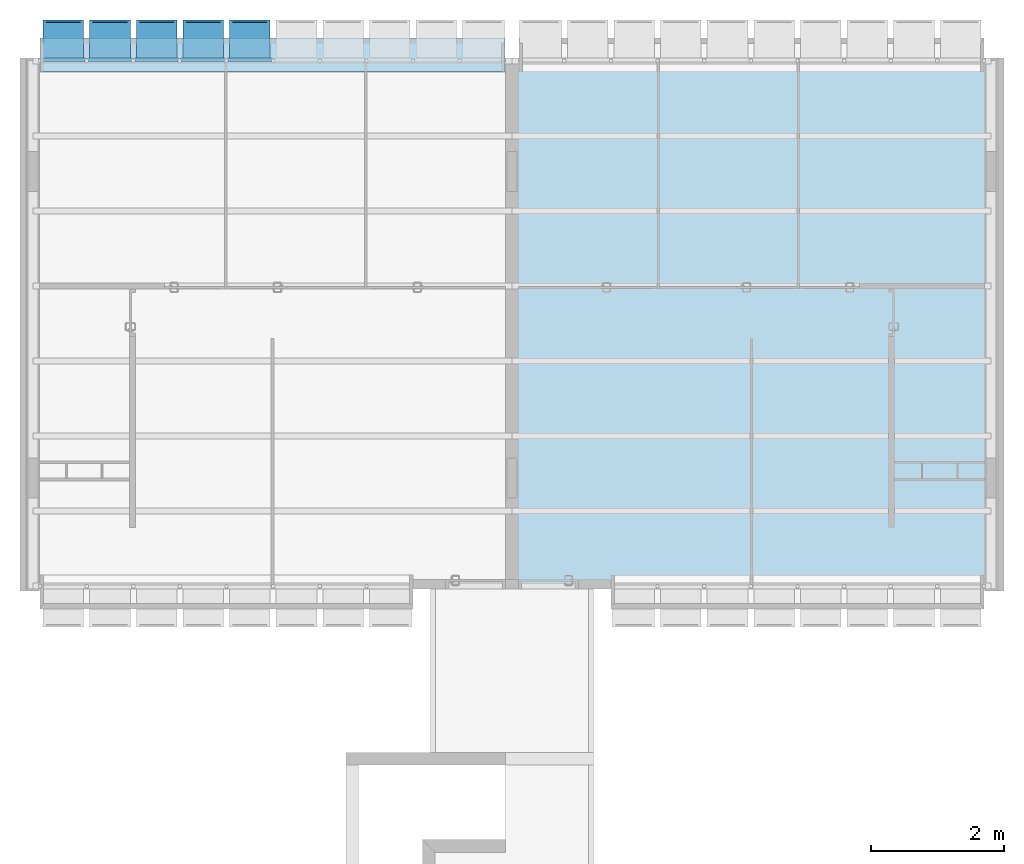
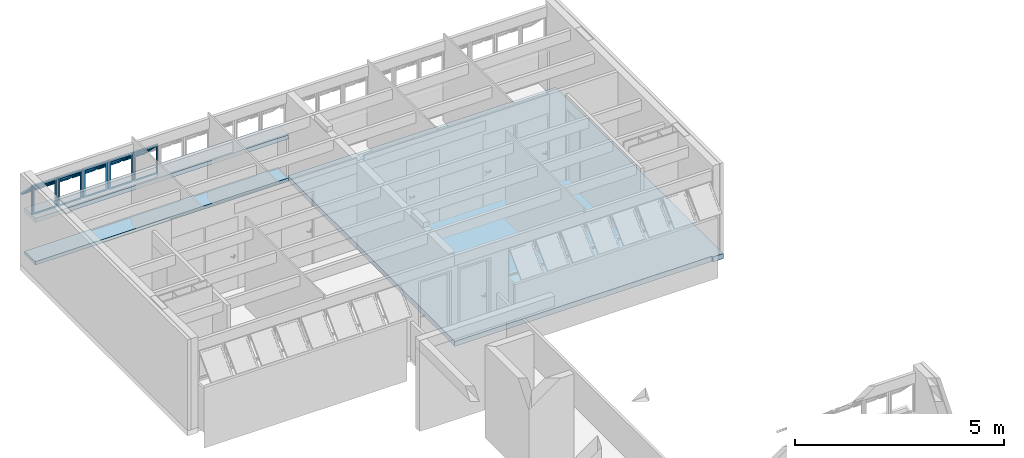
# One storey, part 14 of 40: 5 plates, 3 slabs, 1 element without a shape of its own.
"""IFC4 building model written with IfcOpenShell, lengths in millimetres."""

from ifc_helpers import new_model, entity, si_unit, converted_unit, derived_unit, direction, frame, origin_with_axes, place, context, subcontext, project, spatial, line, indexed_curve, outline, extrude, polygons, source, transform, mapped, material, layer, layer_set, layer_usage, constituent, constituent_set, type_object, element, aggregate, save


model = new_model("IFC4")

# Units and contexts
model_context = context("Model", 3, precision=0.01, world=origin_with_axes(), true_north=direction((0.0, 1.0)))
body_context = subcontext(model_context, "Body", "Model", "MODEL_VIEW")
ifc_project = project(units=[si_unit("LENGTHUNIT", "METRE", prefix="MILLI"), si_unit("AREAUNIT", "SQUARE_METRE"), si_unit("VOLUMEUNIT", "CUBIC_METRE"), converted_unit("PLANEANGLEUNIT", "DEGREE", entity("IfcPlaneAngleMeasure", 0.0174532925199), si_unit("PLANEANGLEUNIT", "RADIAN"), dimensions=[0, 0, 0, 0, 0, 0, 0]), converted_unit("TIMEUNIT", "Year", entity("IfcTimeMeasure", 31556926.0), si_unit("TIMEUNIT", "SECOND"), dimensions=[0, 0, 1, 0, 0, 0, 0]), si_unit("MASSUNIT", "GRAM", prefix="KILO"), si_unit("THERMODYNAMICTEMPERATUREUNIT", "DEGREE_CELSIUS"), si_unit("LUMINOUSINTENSITYUNIT", "LUMEN"), si_unit("ENERGYUNIT", "JOULE", prefix="MEGA"), derived_unit("THERMALCONDUCTANCEUNIT", [(si_unit("POWERUNIT", "WATT"), 1), (si_unit("LENGTHUNIT", "METRE"), -1), (si_unit("THERMODYNAMICTEMPERATUREUNIT", "KELVIN"), -1)]), derived_unit("SPECIFICHEATCAPACITYUNIT", [(si_unit("ENERGYUNIT", "JOULE"), 1), (si_unit("MASSUNIT", "GRAM", prefix="KILO"), -1), (si_unit("THERMODYNAMICTEMPERATUREUNIT", "KELVIN"), -1)]), derived_unit("MASSDENSITYUNIT", [(si_unit("MASSUNIT", "GRAM", prefix="KILO"), 1), (si_unit("VOLUMEUNIT", "CUBIC_METRE"), -1)])], contexts=[model_context])

# Site, building, storey
site_placement = place(None, origin_with_axes())
site = spatial("IfcSite", under=ifc_project, at=site_placement, Name="Local", CompositionType="ELEMENT")
building_placement = place(site_placement, origin_with_axes())
building = spatial("IfcBuilding", under=site, at=building_placement, Name="Construção", CompositionType="ELEMENT")
storey_placement = place(building_placement, frame((0.0, 0.0, 5300.0), z_axis=(0.0, 0.0, 1.0), x_axis=(1.0, 0.0, 0.0)))
storey = spatial("IfcBuildingStorey", under=building, at=storey_placement, Name="Terceiro Pavimento", CompositionType="ELEMENT", Elevation=5300.0)

# Slabs
ifc_material_1 = material(Name="Concreto Armado Moldado in Loco - Estrutural")
ifc_layer_1 = layer(ifc_material_1, 150.0, ventilated="UNKNOWN", Name="Concreto Armado Moldado in Loco - Estrutural")
ifc_layer_set_1 = layer_set([ifc_layer_1], Name="Concreto Armado Moldado in Loco - Estrutural 150")
ifc_layer_usage_1 = layer_usage(ifc_layer_set_1, "AXIS3", "NEGATIVE", 150.0)
slab_type_1 = type_object("IfcSlabType", Name="Concreto Armado Moldado in Loco - Estrutural 150", PredefinedType="FLOOR")
slab_1_placement = place(storey_placement, frame((14770.0, 25860.0, 0.0), z_axis=(0.0, 0.0, 1.0), x_axis=(1.0, 0.0, 0.0)))
element("IfcSlab", 1, at=slab_1_placement, inside=storey, type_object=slab_type_1, material=ifc_layer_usage_1, Name="APTO12-LAJE-000", PredefinedType="FLOOR", context=body_context, shape_type="SweptSolid", body=[
    extrude(outline(indexed_curve([(0.0, 0.0), (-299.999978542, 0.0), (-7385.0, 0.0), (-7385.0, -7964.99999866), (-6160.00008404, -7964.99999866), (-5900.0, -7965.0), (-290.0, -7965.0), (-289.999999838, -8000.00000006), (0.0, -7999.99999872)], segments=[line(1, 2, 3, 4, 5, 6, 7, 8, 9, 1)])), frame((0.0, 0.0, -150.0), z_axis=(0.0, 0.0, 1.0), x_axis=(1.0, 0.0, 0.0)), (0.0, 0.0, 1.0), 150.0),
])
ifc_layer_2 = layer(ifc_material_1, 120.0, ventilated="UNKNOWN", Name="Concreto Armado Moldado in Loco - Estrutural")
ifc_layer_set_2 = layer_set([ifc_layer_2], Name="Concreto Armado Moldado in Loco - Estrutural 120")
ifc_layer_usage_2 = layer_usage(ifc_layer_set_2, "AXIS3", "NEGATIVE", 120.0)
slab_type_2 = type_object("IfcSlabType", Name="Concreto Armado Moldado in Loco - Estrutural 120", PredefinedType="FLOOR")
slab_2_placement = place(storey_placement, frame((300.0, 26160.0, 1355.0), z_axis=(0.0, 0.0, 1.0), x_axis=(1.0, 0.0, 0.0)))
element("IfcSlab", 2, at=slab_2_placement, inside=storey, type_object=slab_type_2, material=ifc_layer_usage_2, Name="APTO11-LAJE-002", PredefinedType="FLOOR", context=body_context, shape_type="SweptSolid", body=[
    extrude(outline(indexed_curve([(0.0, 0.0), (0.0, -510.0), (6980.0, -510.0), (6980.0, 0.0)], segments=[line(1, 2, 3, 4, 1)])), frame((0.0, 0.0, -120.0), z_axis=(0.0, 0.0, 1.0), x_axis=(1.0, 0.0, 0.0)), (0.0, 0.0, 1.0), 120.0),
])
ifc_layer_3 = layer(ifc_material_1, 100.0, ventilated="UNKNOWN", Name="Concreto Armado Moldado in Loco - Estrutural")
ifc_layer_set_3 = layer_set([ifc_layer_3], Name="Concreto Armado Moldado in Loco - Estrutural 100")
ifc_layer_usage_3 = layer_usage(ifc_layer_set_3, "AXIS3", "NEGATIVE", 100.0)
slab_type_3 = type_object("IfcSlabType", Name="Concreto Armado Moldado in Loco - Estrutural 100", PredefinedType="FLOOR")
slab_3_placement = place(storey_placement, frame((300.0, 26160.0, 100.0), z_axis=(0.0, 0.0, 1.0), x_axis=(1.0, 0.0, 0.0)))
element("IfcSlab", 3, at=slab_3_placement, inside=storey, type_object=slab_type_3, material=ifc_layer_usage_3, Name="APTO11-LAJE-001", PredefinedType="FLOOR", context=body_context, shape_type="SweptSolid", body=[
    extrude(outline(indexed_curve([(0.0, 0.0), (0.0, -510.0), (6980.0, -510.0), (6980.0, 0.0)], segments=[line(1, 2, 3, 4, 1)])), frame((0.0, 0.0, -100.0), z_axis=(0.0, 0.0, 1.0), x_axis=(1.0, 0.0, 0.0)), (0.0, 0.0, 1.0), 100.0),
])

# Window, plates
window_type = type_object("IfcWindowType", Name="Tipo de Parede Cortina", PartitioningType="NOTDEFINED", PredefinedType="NOTDEFINED")
window_placement = place(storey_placement, frame((6250.0, 25844.9790225, 1355.02054151), z_axis=(0.0, 0.0, 1.0), x_axis=(1.0, 0.0, 0.0)))
window = element("IfcWindow", 4, at=window_placement, inside=storey, type_object=window_type, Name="APTO11-JANELA-001", PredefinedType="NOTDEFINED")
ifc_material_2 = material(Name="Alumínio")
ifc_constituent_1 = constituent(ifc_material_2, Name="Alumínio")
ifc_material_3 = material(Name="Vidro")
ifc_constituent_2 = constituent(ifc_material_3, Name="Vidro")
ifc_constituent_set_1 = constituent_set(constituents=[ifc_constituent_1, ifc_constituent_2])
plate_type = type_object("IfcPlateType", Name="Painel Principal 690 x 845 x 20", PredefinedType="CURTAIN_PANEL")
shared_shape_1 = source(origin_with_axes(), body_context, "Body", "Tessellation", [
    polygons([(-25.0000036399, 0.0, -40.0), (-25.0000036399, 0.0, -35.0), (-674.999997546, 0.0, -35.0), (-674.999997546, 0.0, -40.0), (-70.0000036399, 45.0, -40.0), (-70.0000036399, 45.0, -35.0), (-629.999997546, 45.0, -35.0), (-629.999997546, 45.0, -40.0)], [[[1, 2, 3, 4]], [[5, 6, 2, 1]], [[2, 6, 7, 3]], [[4, 3, 7, 8]], [[1, 4, 8, 5]], [[8, 7, 6, 5]]], closed=True),
    polygons([(-674.999997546, 0.0, -40.0), (-674.999997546, 0.0, -35.0), (-674.999997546, 844.999891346, -35.0), (-674.999997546, 844.999891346, -40.0), (-629.999997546, 45.0, -40.0), (-629.999997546, 45.0, -35.0), (-629.999997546, 799.999891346, -35.0), (-629.999997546, 799.999891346, -40.0)], [[[1, 2, 3, 4]], [[5, 6, 2, 1]], [[2, 6, 7, 3]], [[4, 3, 7, 8]], [[1, 4, 8, 5]], [[8, 7, 6, 5]]], closed=True),
    polygons([(-25.0000036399, 844.999891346, -40.0), (-25.0000036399, 844.999891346, -35.0), (-70.0000036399, 799.999891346, -35.0), (-70.0000036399, 799.999891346, -40.0), (-674.999997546, 844.999891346, -40.0), (-674.999997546, 844.999891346, -35.0), (-629.999997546, 799.999891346, -35.0), (-629.999997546, 799.999891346, -40.0)], [[[1, 2, 3, 4]], [[5, 6, 2, 1]], [[2, 6, 7, 3]], [[4, 3, 7, 8]], [[1, 4, 8, 5]], [[8, 7, 6, 5]]], closed=True),
    polygons([(-25.0000036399, 0.0, -40.0), (-25.0000036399, 0.0, -35.0), (-70.0000036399, 45.0, -35.0), (-70.0000036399, 45.0, -40.0), (-25.0000036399, 844.999891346, -40.0), (-25.0000036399, 844.999891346, -35.0), (-70.0000036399, 799.999891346, -35.0), (-70.0000036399, 799.999891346, -40.0)], [[[1, 2, 3, 4]], [[5, 6, 2, 1]], [[2, 6, 7, 3]], [[4, 3, 7, 8]], [[1, 4, 8, 5]], [[8, 7, 6, 5]]], closed=True),
    polygons([(-25.0000036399, 0.0, -35.0), (-25.0000036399, 0.0, 15.0), (-674.999997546, 0.0, 15.0), (-674.999997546, 0.0, -35.0), (-45.0000036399, 20.0, -35.0), (-45.0000036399, 20.0, 15.0), (-654.999997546, 20.0, 15.0), (-654.999997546, 20.0, -35.0)], [[[1, 2, 3, 4]], [[5, 6, 2, 1]], [[2, 6, 7, 3]], [[4, 3, 7, 8]], [[1, 4, 8, 5]], [[8, 7, 6, 5]]], closed=True),
    polygons([(-674.999997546, 0.0, -35.0), (-674.999997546, 0.0, 15.0), (-674.999997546, 844.999891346, 15.0), (-674.999997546, 844.999891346, -35.0), (-654.999997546, 20.0, -35.0), (-654.999997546, 20.0, 15.0), (-654.999997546, 824.999891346, 15.0), (-654.999997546, 824.999891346, -35.0)], [[[1, 2, 3, 4]], [[5, 6, 2, 1]], [[2, 6, 7, 3]], [[4, 3, 7, 8]], [[1, 4, 8, 5]], [[8, 7, 6, 5]]], closed=True),
    polygons([(-25.0000036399, 844.999891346, -35.0), (-25.0000036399, 844.999891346, 15.0), (-45.0000036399, 824.999891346, 15.0), (-45.0000036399, 824.999891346, -35.0), (-674.999997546, 844.999891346, -35.0), (-674.999997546, 844.999891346, 15.0), (-654.999997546, 824.999891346, 15.0), (-654.999997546, 824.999891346, -35.0)], [[[1, 2, 3, 4]], [[5, 6, 2, 1]], [[2, 6, 7, 3]], [[4, 3, 7, 8]], [[1, 4, 8, 5]], [[8, 7, 6, 5]]], closed=True),
    polygons([(-25.0000036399, 0.0, -35.0), (-25.0000036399, 0.0, 15.0), (-45.0000036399, 20.0, 15.0), (-45.0000036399, 20.0, -35.0), (-25.0000036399, 844.999891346, -35.0), (-25.0000036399, 844.999891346, 15.0), (-45.0000036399, 824.999891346, 15.0), (-45.0000036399, 824.999891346, -35.0)], [[[1, 2, 3, 4]], [[5, 6, 2, 1]], [[2, 6, 7, 3]], [[4, 3, 7, 8]], [[1, 4, 8, 5]], [[8, 7, 6, 5]]], closed=True),
    polygons([(-694.999995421, 0.0, -10.0), (-694.999995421, 0.0, 10.0), (-694.999995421, 844.999891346, 10.0), (-694.999995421, 844.999891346, -10.0), (-674.999997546, 0.0, -10.0), (-674.999997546, 0.0, 10.0), (-674.999997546, 844.999891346, 10.0), (-674.999997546, 844.999891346, -10.0)], [[[1, 2, 3, 4]], [[5, 6, 2, 1]], [[2, 6, 7, 3]], [[4, 3, 7, 8]], [[1, 4, 8, 5]], [[8, 7, 6, 5]]], closed=True),
    polygons([(-5.00000576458, 844.999891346, -10.0), (-5.00000576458, 844.999891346, 10.0), (-5.00000576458, 0.0, 10.0), (-5.00000576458, 0.0, -10.0), (-25.0000036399, 844.999891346, -10.0), (-25.0000036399, 844.999891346, 10.0), (-25.0000036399, 0.0, 10.0), (-25.0000036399, 0.0, -10.0)], [[[1, 2, 3, 4]], [[5, 6, 2, 1]], [[2, 6, 7, 3]], [[4, 3, 7, 8]], [[1, 4, 8, 5]], [[8, 7, 6, 5]]], closed=True),
    polygons([(-90.0000036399, 252.243475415, 517.045737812), (-90.0000036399, 291.13434838, 555.936610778), (-90.0000036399, 796.715620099, 50.3553390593), (-90.0000036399, 757.824747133, 11.4644660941), (-45.0000036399, 220.423670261, 548.865542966), (-45.0000036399, 259.314543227, 587.756415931), (-45.0000036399, 828.535425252, 18.5355339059), (-45.0000036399, 789.644552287, -20.3553390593)], [[[1, 2, 3, 4]], [[5, 6, 2, 1]], [[2, 6, 7, 3]], [[4, 3, 7, 8]], [[1, 4, 8, 5]], [[8, 7, 6, 5]]], closed=True),
    polygons([(-654.999997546, 220.423670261, 548.865542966), (-654.999997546, 259.314543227, 587.756415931), (-654.999997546, 828.535425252, 18.5355339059), (-654.999997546, 789.644552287, -20.3553390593), (-609.999997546, 252.243475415, 517.045737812), (-609.999997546, 291.13434838, 555.936610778), (-609.999997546, 796.715620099, 50.3553390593), (-609.999997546, 757.824747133, 11.4644660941)], [[[1, 2, 3, 4]], [[5, 6, 2, 1]], [[2, 6, 7, 3]], [[4, 3, 7, 8]], [[1, 4, 8, 5]], [[8, 7, 6, 5]]], closed=True),
    polygons([(-654.999997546, 220.423670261, 548.865542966), (-654.999997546, 259.314543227, 587.756415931), (-609.999997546, 291.13434838, 555.936610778), (-609.999997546, 252.243475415, 517.045737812), (-45.0000036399, 220.423670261, 548.865542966), (-45.0000036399, 259.314543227, 587.756415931), (-90.0000036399, 291.13434838, 555.936610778), (-90.0000036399, 252.243475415, 517.045737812)], [[[1, 2, 3, 4]], [[5, 6, 2, 1]], [[2, 6, 7, 3]], [[4, 3, 7, 8]], [[1, 4, 8, 5]], [[8, 7, 6, 5]]], closed=True),
    polygons([(-45.0000036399, 789.644552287, -20.3553390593), (-45.0000036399, 828.535425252, 18.5355339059), (-90.0000036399, 796.715620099, 50.3553390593), (-90.0000036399, 757.824747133, 11.4644660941), (-654.999997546, 789.644552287, -20.3553390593), (-654.999997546, 828.535425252, 18.5355339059), (-609.999997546, 796.715620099, 50.3553390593), (-609.999997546, 757.824747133, 11.4644660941)], [[[1, 2, 3, 4]], [[5, 6, 2, 1]], [[2, 6, 7, 3]], [[4, 3, 7, 8]], [[1, 4, 8, 5]], [[8, 7, 6, 5]]], closed=True),
    polygons([(-90.0000036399, 272.749572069, 537.551834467), (-90.0000036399, 284.063280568, 548.865542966), (-609.999997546, 284.063280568, 548.865542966), (-609.999997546, 272.749572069, 537.551834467), (-90.0000036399, 778.330843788, 31.9705627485), (-90.0000036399, 789.644552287, 43.2842712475), (-609.999997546, 789.644552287, 43.2842712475), (-609.999997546, 778.330843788, 31.9705627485)], [[[1, 2, 3, 4]], [[5, 6, 2, 1]], [[2, 6, 7, 3]], [[4, 3, 7, 8]], [[1, 4, 8, 5]], [[8, 7, 6, 5]]], closed=True),
])
plate_1_placement = place(window_placement, frame((-3500.0, 0.0, 422.499945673), z_axis=(0.0, 0.0, 1.0), x_axis=(-1.0, 0.0, 0.0)))
plate_1 = element("IfcPlate", 5, at=plate_1_placement, type_object=plate_type, material=ifc_constituent_set_1, Name="APTO11-Painel-Prin-013", PredefinedType="CURTAIN_PANEL", context=body_context, shape_type="MappedRepresentation", body=[
    mapped(shared_shape_1, transform((350.0, 0.0, -422.499945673), x_axis=(1.0, 0.0, 0.0), y_axis=(0.0, 0.0, 1.0), z_axis=(0.0, -1.0, 0.0))),
])
ifc_constituent_3 = constituent(ifc_material_2, Name="Alumínio")
ifc_constituent_4 = constituent(ifc_material_3, Name="Vidro")
ifc_constituent_set_2 = constituent_set(constituents=[ifc_constituent_3, ifc_constituent_4])
shared_shape_2 = source(origin_with_axes(), body_context, "Body", "Tessellation", [
    polygons([(-25.0000036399, 0.0, -40.0), (-25.0000036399, 0.0, -35.0), (-674.999997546, 0.0, -35.0), (-674.999997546, 0.0, -40.0), (-70.0000036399, 45.0, -40.0), (-70.0000036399, 45.0, -35.0), (-629.999997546, 45.0, -35.0), (-629.999997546, 45.0, -40.0)], [[[1, 2, 3, 4]], [[5, 6, 2, 1]], [[2, 6, 7, 3]], [[4, 3, 7, 8]], [[1, 4, 8, 5]], [[8, 7, 6, 5]]], closed=True),
    polygons([(-674.999997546, 0.0, -40.0), (-674.999997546, 0.0, -35.0), (-674.999997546, 844.999891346, -35.0), (-674.999997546, 844.999891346, -40.0), (-629.999997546, 45.0, -40.0), (-629.999997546, 45.0, -35.0), (-629.999997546, 799.999891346, -35.0), (-629.999997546, 799.999891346, -40.0)], [[[1, 2, 3, 4]], [[5, 6, 2, 1]], [[2, 6, 7, 3]], [[4, 3, 7, 8]], [[1, 4, 8, 5]], [[8, 7, 6, 5]]], closed=True),
    polygons([(-25.0000036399, 844.999891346, -40.0), (-25.0000036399, 844.999891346, -35.0), (-70.0000036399, 799.999891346, -35.0), (-70.0000036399, 799.999891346, -40.0), (-674.999997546, 844.999891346, -40.0), (-674.999997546, 844.999891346, -35.0), (-629.999997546, 799.999891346, -35.0), (-629.999997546, 799.999891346, -40.0)], [[[1, 2, 3, 4]], [[5, 6, 2, 1]], [[2, 6, 7, 3]], [[4, 3, 7, 8]], [[1, 4, 8, 5]], [[8, 7, 6, 5]]], closed=True),
    polygons([(-25.0000036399, 0.0, -40.0), (-25.0000036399, 0.0, -35.0), (-70.0000036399, 45.0, -35.0), (-70.0000036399, 45.0, -40.0), (-25.0000036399, 844.999891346, -40.0), (-25.0000036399, 844.999891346, -35.0), (-70.0000036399, 799.999891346, -35.0), (-70.0000036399, 799.999891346, -40.0)], [[[1, 2, 3, 4]], [[5, 6, 2, 1]], [[2, 6, 7, 3]], [[4, 3, 7, 8]], [[1, 4, 8, 5]], [[8, 7, 6, 5]]], closed=True),
    polygons([(-25.0000036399, 0.0, -35.0), (-25.0000036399, 0.0, 15.0), (-674.999997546, 0.0, 15.0), (-674.999997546, 0.0, -35.0), (-45.0000036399, 20.0, -35.0), (-45.0000036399, 20.0, 15.0), (-654.999997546, 20.0, 15.0), (-654.999997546, 20.0, -35.0)], [[[1, 2, 3, 4]], [[5, 6, 2, 1]], [[2, 6, 7, 3]], [[4, 3, 7, 8]], [[1, 4, 8, 5]], [[8, 7, 6, 5]]], closed=True),
    polygons([(-674.999997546, 0.0, -35.0), (-674.999997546, 0.0, 15.0), (-674.999997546, 844.999891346, 15.0), (-674.999997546, 844.999891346, -35.0), (-654.999997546, 20.0, -35.0), (-654.999997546, 20.0, 15.0), (-654.999997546, 824.999891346, 15.0), (-654.999997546, 824.999891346, -35.0)], [[[1, 2, 3, 4]], [[5, 6, 2, 1]], [[2, 6, 7, 3]], [[4, 3, 7, 8]], [[1, 4, 8, 5]], [[8, 7, 6, 5]]], closed=True),
    polygons([(-25.0000036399, 844.999891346, -35.0), (-25.0000036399, 844.999891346, 15.0), (-45.0000036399, 824.999891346, 15.0), (-45.0000036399, 824.999891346, -35.0), (-674.999997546, 844.999891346, -35.0), (-674.999997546, 844.999891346, 15.0), (-654.999997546, 824.999891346, 15.0), (-654.999997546, 824.999891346, -35.0)], [[[1, 2, 3, 4]], [[5, 6, 2, 1]], [[2, 6, 7, 3]], [[4, 3, 7, 8]], [[1, 4, 8, 5]], [[8, 7, 6, 5]]], closed=True),
    polygons([(-25.0000036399, 0.0, -35.0), (-25.0000036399, 0.0, 15.0), (-45.0000036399, 20.0, 15.0), (-45.0000036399, 20.0, -35.0), (-25.0000036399, 844.999891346, -35.0), (-25.0000036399, 844.999891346, 15.0), (-45.0000036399, 824.999891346, 15.0), (-45.0000036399, 824.999891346, -35.0)], [[[1, 2, 3, 4]], [[5, 6, 2, 1]], [[2, 6, 7, 3]], [[4, 3, 7, 8]], [[1, 4, 8, 5]], [[8, 7, 6, 5]]], closed=True),
    polygons([(-694.999995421, 0.0, -10.0), (-694.999995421, 0.0, 10.0), (-694.999995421, 844.999891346, 10.0), (-694.999995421, 844.999891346, -10.0), (-674.999997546, 0.0, -10.0), (-674.999997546, 0.0, 10.0), (-674.999997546, 844.999891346, 10.0), (-674.999997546, 844.999891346, -10.0)], [[[1, 2, 3, 4]], [[5, 6, 2, 1]], [[2, 6, 7, 3]], [[4, 3, 7, 8]], [[1, 4, 8, 5]], [[8, 7, 6, 5]]], closed=True),
    polygons([(-5.00000576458, 844.999891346, -10.0), (-5.00000576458, 844.999891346, 10.0), (-5.00000576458, 0.0, 10.0), (-5.00000576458, 0.0, -10.0), (-25.0000036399, 844.999891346, -10.0), (-25.0000036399, 844.999891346, 10.0), (-25.0000036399, 0.0, 10.0), (-25.0000036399, 0.0, -10.0)], [[[1, 2, 3, 4]], [[5, 6, 2, 1]], [[2, 6, 7, 3]], [[4, 3, 7, 8]], [[1, 4, 8, 5]], [[8, 7, 6, 5]]], closed=True),
    polygons([(-90.0000036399, 252.243475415, 517.045737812), (-90.0000036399, 291.13434838, 555.936610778), (-90.0000036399, 796.715620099, 50.3553390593), (-90.0000036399, 757.824747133, 11.4644660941), (-45.0000036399, 220.423670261, 548.865542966), (-45.0000036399, 259.314543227, 587.756415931), (-45.0000036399, 828.535425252, 18.5355339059), (-45.0000036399, 789.644552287, -20.3553390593)], [[[1, 2, 3, 4]], [[5, 6, 2, 1]], [[2, 6, 7, 3]], [[4, 3, 7, 8]], [[1, 4, 8, 5]], [[8, 7, 6, 5]]], closed=True),
    polygons([(-654.999997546, 220.423670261, 548.865542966), (-654.999997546, 259.314543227, 587.756415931), (-654.999997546, 828.535425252, 18.5355339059), (-654.999997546, 789.644552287, -20.3553390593), (-609.999997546, 252.243475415, 517.045737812), (-609.999997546, 291.13434838, 555.936610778), (-609.999997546, 796.715620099, 50.3553390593), (-609.999997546, 757.824747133, 11.4644660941)], [[[1, 2, 3, 4]], [[5, 6, 2, 1]], [[2, 6, 7, 3]], [[4, 3, 7, 8]], [[1, 4, 8, 5]], [[8, 7, 6, 5]]], closed=True),
    polygons([(-654.999997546, 220.423670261, 548.865542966), (-654.999997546, 259.314543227, 587.756415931), (-609.999997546, 291.13434838, 555.936610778), (-609.999997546, 252.243475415, 517.045737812), (-45.0000036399, 220.423670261, 548.865542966), (-45.0000036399, 259.314543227, 587.756415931), (-90.0000036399, 291.13434838, 555.936610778), (-90.0000036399, 252.243475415, 517.045737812)], [[[1, 2, 3, 4]], [[5, 6, 2, 1]], [[2, 6, 7, 3]], [[4, 3, 7, 8]], [[1, 4, 8, 5]], [[8, 7, 6, 5]]], closed=True),
    polygons([(-45.0000036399, 789.644552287, -20.3553390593), (-45.0000036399, 828.535425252, 18.5355339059), (-90.0000036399, 796.715620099, 50.3553390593), (-90.0000036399, 757.824747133, 11.4644660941), (-654.999997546, 789.644552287, -20.3553390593), (-654.999997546, 828.535425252, 18.5355339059), (-609.999997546, 796.715620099, 50.3553390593), (-609.999997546, 757.824747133, 11.4644660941)], [[[1, 2, 3, 4]], [[5, 6, 2, 1]], [[2, 6, 7, 3]], [[4, 3, 7, 8]], [[1, 4, 8, 5]], [[8, 7, 6, 5]]], closed=True),
    polygons([(-90.0000036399, 272.749572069, 537.551834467), (-90.0000036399, 284.063280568, 548.865542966), (-609.999997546, 284.063280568, 548.865542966), (-609.999997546, 272.749572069, 537.551834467), (-90.0000036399, 778.330843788, 31.9705627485), (-90.0000036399, 789.644552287, 43.2842712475), (-609.999997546, 789.644552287, 43.2842712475), (-609.999997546, 778.330843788, 31.9705627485)], [[[1, 2, 3, 4]], [[5, 6, 2, 1]], [[2, 6, 7, 3]], [[4, 3, 7, 8]], [[1, 4, 8, 5]], [[8, 7, 6, 5]]], closed=True),
])
plate_2_placement = place(window_placement, frame((-5600.0, 0.0, 422.499945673), z_axis=(0.0, 0.0, 1.0), x_axis=(-1.0, 0.0, 0.0)))
plate_2 = element("IfcPlate", 6, at=plate_2_placement, type_object=plate_type, material=ifc_constituent_set_2, Name="APTO11-Painel-Prin-013", PredefinedType="CURTAIN_PANEL", context=body_context, shape_type="MappedRepresentation", body=[
    mapped(shared_shape_2, transform((350.0, 0.0, -422.499945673), x_axis=(1.0, 0.0, 0.0), y_axis=(0.0, 0.0, 1.0), z_axis=(0.0, -1.0, 0.0))),
])
ifc_constituent_5 = constituent(ifc_material_2, Name="Alumínio")
ifc_constituent_6 = constituent(ifc_material_3, Name="Vidro")
ifc_constituent_set_3 = constituent_set(constituents=[ifc_constituent_5, ifc_constituent_6])
plate_3_placement = place(window_placement, frame((-4900.0, 0.0, 422.499945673), z_axis=(0.0, 0.0, 1.0), x_axis=(-1.0, 0.0, 0.0)))
plate_3 = element("IfcPlate", 7, at=plate_3_placement, type_object=plate_type, material=ifc_constituent_set_3, Name="APTO11-Painel-Prin-013", PredefinedType="CURTAIN_PANEL", context=body_context, shape_type="MappedRepresentation", body=[
    mapped(shared_shape_2, transform((350.0, 0.0, -422.499945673), x_axis=(1.0, 0.0, 0.0), y_axis=(0.0, 0.0, 1.0), z_axis=(0.0, -1.0, 0.0))),
])
ifc_constituent_7 = constituent(ifc_material_2, Name="Alumínio")
ifc_constituent_8 = constituent(ifc_material_3, Name="Vidro")
ifc_constituent_set_4 = constituent_set(constituents=[ifc_constituent_7, ifc_constituent_8])
shared_shape_3 = source(origin_with_axes(), body_context, "Body", "Tessellation", [
    polygons([(-25.0000036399, 0.0, -40.0), (-25.0000036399, 0.0, -35.0), (-674.999997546, 0.0, -35.0), (-674.999997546, 0.0, -40.0), (-70.0000036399, 45.0, -40.0), (-70.0000036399, 45.0, -35.0), (-629.999997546, 45.0, -35.0), (-629.999997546, 45.0, -40.0)], [[[1, 2, 3, 4]], [[5, 6, 2, 1]], [[2, 6, 7, 3]], [[4, 3, 7, 8]], [[1, 4, 8, 5]], [[8, 7, 6, 5]]], closed=True),
    polygons([(-674.999997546, 0.0, -40.0), (-674.999997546, 0.0, -35.0), (-674.999997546, 844.999891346, -35.0), (-674.999997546, 844.999891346, -40.0), (-629.999997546, 45.0, -40.0), (-629.999997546, 45.0, -35.0), (-629.999997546, 799.999891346, -35.0), (-629.999997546, 799.999891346, -40.0)], [[[1, 2, 3, 4]], [[5, 6, 2, 1]], [[2, 6, 7, 3]], [[4, 3, 7, 8]], [[1, 4, 8, 5]], [[8, 7, 6, 5]]], closed=True),
    polygons([(-25.0000036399, 844.999891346, -40.0), (-25.0000036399, 844.999891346, -35.0), (-70.0000036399, 799.999891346, -35.0), (-70.0000036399, 799.999891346, -40.0), (-674.999997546, 844.999891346, -40.0), (-674.999997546, 844.999891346, -35.0), (-629.999997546, 799.999891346, -35.0), (-629.999997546, 799.999891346, -40.0)], [[[1, 2, 3, 4]], [[5, 6, 2, 1]], [[2, 6, 7, 3]], [[4, 3, 7, 8]], [[1, 4, 8, 5]], [[8, 7, 6, 5]]], closed=True),
    polygons([(-25.0000036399, 0.0, -40.0), (-25.0000036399, 0.0, -35.0), (-70.0000036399, 45.0, -35.0), (-70.0000036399, 45.0, -40.0), (-25.0000036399, 844.999891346, -40.0), (-25.0000036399, 844.999891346, -35.0), (-70.0000036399, 799.999891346, -35.0), (-70.0000036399, 799.999891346, -40.0)], [[[1, 2, 3, 4]], [[5, 6, 2, 1]], [[2, 6, 7, 3]], [[4, 3, 7, 8]], [[1, 4, 8, 5]], [[8, 7, 6, 5]]], closed=True),
    polygons([(-25.0000036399, 0.0, -35.0), (-25.0000036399, 0.0, 15.0), (-674.999997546, 0.0, 15.0), (-674.999997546, 0.0, -35.0), (-45.0000036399, 20.0, -35.0), (-45.0000036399, 20.0, 15.0), (-654.999997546, 20.0, 15.0), (-654.999997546, 20.0, -35.0)], [[[1, 2, 3, 4]], [[5, 6, 2, 1]], [[2, 6, 7, 3]], [[4, 3, 7, 8]], [[1, 4, 8, 5]], [[8, 7, 6, 5]]], closed=True),
    polygons([(-674.999997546, 0.0, -35.0), (-674.999997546, 0.0, 15.0), (-674.999997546, 844.999891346, 15.0), (-674.999997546, 844.999891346, -35.0), (-654.999997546, 20.0, -35.0), (-654.999997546, 20.0, 15.0), (-654.999997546, 824.999891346, 15.0), (-654.999997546, 824.999891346, -35.0)], [[[1, 2, 3, 4]], [[5, 6, 2, 1]], [[2, 6, 7, 3]], [[4, 3, 7, 8]], [[1, 4, 8, 5]], [[8, 7, 6, 5]]], closed=True),
    polygons([(-25.0000036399, 844.999891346, -35.0), (-25.0000036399, 844.999891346, 15.0), (-45.0000036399, 824.999891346, 15.0), (-45.0000036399, 824.999891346, -35.0), (-674.999997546, 844.999891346, -35.0), (-674.999997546, 844.999891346, 15.0), (-654.999997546, 824.999891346, 15.0), (-654.999997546, 824.999891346, -35.0)], [[[1, 2, 3, 4]], [[5, 6, 2, 1]], [[2, 6, 7, 3]], [[4, 3, 7, 8]], [[1, 4, 8, 5]], [[8, 7, 6, 5]]], closed=True),
    polygons([(-25.0000036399, 0.0, -35.0), (-25.0000036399, 0.0, 15.0), (-45.0000036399, 20.0, 15.0), (-45.0000036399, 20.0, -35.0), (-25.0000036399, 844.999891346, -35.0), (-25.0000036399, 844.999891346, 15.0), (-45.0000036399, 824.999891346, 15.0), (-45.0000036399, 824.999891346, -35.0)], [[[1, 2, 3, 4]], [[5, 6, 2, 1]], [[2, 6, 7, 3]], [[4, 3, 7, 8]], [[1, 4, 8, 5]], [[8, 7, 6, 5]]], closed=True),
    polygons([(-694.999995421, 0.0, -10.0), (-694.999995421, 0.0, 10.0), (-694.999995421, 844.999891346, 10.0), (-694.999995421, 844.999891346, -10.0), (-674.999997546, 0.0, -10.0), (-674.999997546, 0.0, 10.0), (-674.999997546, 844.999891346, 10.0), (-674.999997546, 844.999891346, -10.0)], [[[1, 2, 3, 4]], [[5, 6, 2, 1]], [[2, 6, 7, 3]], [[4, 3, 7, 8]], [[1, 4, 8, 5]], [[8, 7, 6, 5]]], closed=True),
    polygons([(-5.00000576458, 844.999891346, -10.0), (-5.00000576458, 844.999891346, 10.0), (-5.00000576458, 0.0, 10.0), (-5.00000576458, 0.0, -10.0), (-25.0000036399, 844.999891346, -10.0), (-25.0000036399, 844.999891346, 10.0), (-25.0000036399, 0.0, 10.0), (-25.0000036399, 0.0, -10.0)], [[[1, 2, 3, 4]], [[5, 6, 2, 1]], [[2, 6, 7, 3]], [[4, 3, 7, 8]], [[1, 4, 8, 5]], [[8, 7, 6, 5]]], closed=True),
    polygons([(-90.0000036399, 252.243475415, 517.045737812), (-90.0000036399, 291.13434838, 555.936610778), (-90.0000036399, 796.715620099, 50.3553390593), (-90.0000036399, 757.824747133, 11.4644660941), (-45.0000036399, 220.423670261, 548.865542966), (-45.0000036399, 259.314543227, 587.756415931), (-45.0000036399, 828.535425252, 18.5355339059), (-45.0000036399, 789.644552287, -20.3553390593)], [[[1, 2, 3, 4]], [[5, 6, 2, 1]], [[2, 6, 7, 3]], [[4, 3, 7, 8]], [[1, 4, 8, 5]], [[8, 7, 6, 5]]], closed=True),
    polygons([(-654.999997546, 220.423670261, 548.865542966), (-654.999997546, 259.314543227, 587.756415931), (-654.999997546, 828.535425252, 18.5355339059), (-654.999997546, 789.644552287, -20.3553390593), (-609.999997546, 252.243475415, 517.045737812), (-609.999997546, 291.13434838, 555.936610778), (-609.999997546, 796.715620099, 50.3553390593), (-609.999997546, 757.824747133, 11.4644660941)], [[[1, 2, 3, 4]], [[5, 6, 2, 1]], [[2, 6, 7, 3]], [[4, 3, 7, 8]], [[1, 4, 8, 5]], [[8, 7, 6, 5]]], closed=True),
    polygons([(-654.999997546, 220.423670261, 548.865542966), (-654.999997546, 259.314543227, 587.756415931), (-609.999997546, 291.13434838, 555.936610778), (-609.999997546, 252.243475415, 517.045737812), (-45.0000036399, 220.423670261, 548.865542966), (-45.0000036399, 259.314543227, 587.756415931), (-90.0000036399, 291.13434838, 555.936610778), (-90.0000036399, 252.243475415, 517.045737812)], [[[1, 2, 3, 4]], [[5, 6, 2, 1]], [[2, 6, 7, 3]], [[4, 3, 7, 8]], [[1, 4, 8, 5]], [[8, 7, 6, 5]]], closed=True),
    polygons([(-45.0000036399, 789.644552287, -20.3553390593), (-45.0000036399, 828.535425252, 18.5355339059), (-90.0000036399, 796.715620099, 50.3553390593), (-90.0000036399, 757.824747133, 11.4644660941), (-654.999997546, 789.644552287, -20.3553390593), (-654.999997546, 828.535425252, 18.5355339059), (-609.999997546, 796.715620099, 50.3553390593), (-609.999997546, 757.824747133, 11.4644660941)], [[[1, 2, 3, 4]], [[5, 6, 2, 1]], [[2, 6, 7, 3]], [[4, 3, 7, 8]], [[1, 4, 8, 5]], [[8, 7, 6, 5]]], closed=True),
    polygons([(-90.0000036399, 272.749572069, 537.551834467), (-90.0000036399, 284.063280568, 548.865542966), (-609.999997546, 284.063280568, 548.865542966), (-609.999997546, 272.749572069, 537.551834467), (-90.0000036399, 778.330843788, 31.9705627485), (-90.0000036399, 789.644552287, 43.2842712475), (-609.999997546, 789.644552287, 43.2842712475), (-609.999997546, 778.330843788, 31.9705627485)], [[[1, 2, 3, 4]], [[5, 6, 2, 1]], [[2, 6, 7, 3]], [[4, 3, 7, 8]], [[1, 4, 8, 5]], [[8, 7, 6, 5]]], closed=True),
])
plate_4_placement = place(window_placement, frame((-2800.0, 0.0, 422.499945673), z_axis=(0.0, 0.0, 1.0), x_axis=(-1.0, 0.0, 0.0)))
plate_4 = element("IfcPlate", 8, at=plate_4_placement, type_object=plate_type, material=ifc_constituent_set_4, Name="APTO11-Painel-Prin-013", PredefinedType="CURTAIN_PANEL", context=body_context, shape_type="MappedRepresentation", body=[
    mapped(shared_shape_3, transform((350.0, 0.0, -422.499945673), x_axis=(1.0, 0.0, 0.0), y_axis=(0.0, 0.0, 1.0), z_axis=(0.0, -1.0, 0.0))),
])
ifc_constituent_9 = constituent(ifc_material_2, Name="Alumínio")
ifc_constituent_10 = constituent(ifc_material_3, Name="Vidro")
ifc_constituent_set_5 = constituent_set(constituents=[ifc_constituent_9, ifc_constituent_10])
plate_5_placement = place(window_placement, frame((-4200.0, 0.0, 422.499945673), z_axis=(0.0, 0.0, 1.0), x_axis=(-1.0, 0.0, 0.0)))
plate_5 = element("IfcPlate", 9, at=plate_5_placement, type_object=plate_type, material=ifc_constituent_set_5, Name="APTO11-Painel-Prin-013", PredefinedType="CURTAIN_PANEL", context=body_context, shape_type="MappedRepresentation", body=[
    mapped(shared_shape_3, transform((350.0, 0.0, -422.499945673), x_axis=(1.0, 0.0, 0.0), y_axis=(0.0, 0.0, 1.0), z_axis=(0.0, -1.0, 0.0))),
])
aggregate(window, [plate_2, plate_3, plate_4, plate_5, plate_1])

save(model, "model.ifc")
